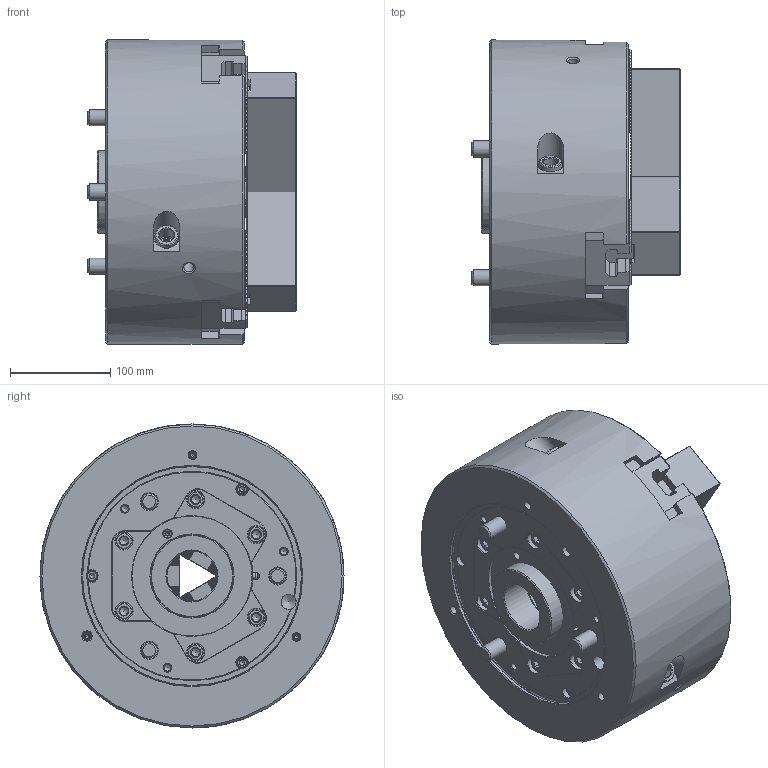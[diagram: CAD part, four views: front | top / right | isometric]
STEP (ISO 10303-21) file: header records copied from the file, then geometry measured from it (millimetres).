
FILE_DESCRIPTION (( 'STEP AP214' ), '1' );
FILE_NAME ('DT1_BL-212_OUTSIDE_VIEW_HOL.STEP', '2024-05-08T02:06:32', ( '' ), ( '' ), 'SwSTEP 2.0', 'SolidWorks 2022', '' );
FILE_SCHEMA (( 'AUTOMOTIVE_DESIGN' ));
Length unit declared in the file: millimetre
Products named in the file (9): DT1_B-212_DRAWNUT^DT1_BL-212_ﾃﾞﾌｫﾙﾄ; DT1_B-212_COVER^DT1_BL-212_ﾃﾞﾌｫﾙﾄ; DT1_B-212_M16x40^DT1_BL-212_ﾃﾞﾌｫﾙﾄ; DT1_B-212_TNUT^DT1_BL-212_ﾃﾞﾌｫﾙﾄ; BASE^DT1_BL-212_ﾃﾞﾌｫﾙﾄ; DT1_BL-212_OUTSIDE_VIEW_HOL; DT1_B-212_M5x10^DT1_BL-212_ﾃﾞﾌｫﾙﾄ; DT1_B-212_SOFTJAW^DT1_BL-212_ﾃﾞﾌｫﾙﾄ; DT1_B-212_M16x130^DT1_BL-212_ﾃﾞﾌｫﾙﾄ
Assembly tree (21 placements, depth 2):
  DT1_BL-212_OUTSIDE_VIEW_HOL
    DT1_B-212_DRAWNUT^DT1_BL-212_ﾃﾞﾌｫﾙﾄ
    DT1_B-212_COVER^DT1_BL-212_ﾃﾞﾌｫﾙﾄ
    DT1_B-212_TNUT^DT1_BL-212_ﾃﾞﾌｫﾙﾄ  x3
    DT1_B-212_SOFTJAW^DT1_BL-212_ﾃﾞﾌｫﾙﾄ  x3
    BASE^DT1_BL-212_ﾃﾞﾌｫﾙﾄ
    DT1_B-212_M16x40^DT1_BL-212_ﾃﾞﾌｫﾙﾄ  x6
    DT1_B-212_M16x130^DT1_BL-212_ﾃﾞﾌｫﾙﾄ  x3
    DT1_B-212_M5x10^DT1_BL-212_ﾃﾞﾌｫﾙﾄ  x3
Bounding box: 208 x 304 x 304 mm (x, y, z)
Volume: 9980242.5 mm3; surface area: 733500 mm2
Topology: 21 solids, 33 shells, 4082 faces, 11487 edges, 7551 vertices
Faces by surface type: plane 3356, cone 288, cylinder 285, bspline 121, torus 29, sphere 3
Full cylindrical faces by diameter (mm): 2 x3, 4.2 x3, 5 x5, 5.5 x3, 6 x1, 6.8 x9, 8 x1, 8.6 x3, 9.5 x3, 10 x9, 10.2 x2, 10.22 x3, 11 x9, 14 x6, 15 x4, 16 x9, 16.27 x6, 17 x15, 23.5 x3, 24.1 x3, 24.33 x9, 25 x9, 50 x1, 63 x1, 67 x3, 76 x1, 83 x2, 83.25 x1, 90 x2, 220 x1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
Entity records: 97987 total; most frequent: CARTESIAN_POINT 25350, ORIENTED_EDGE 15580, DIRECTION 13385, EDGE_CURVE 7790, LINE 6325, VECTOR 6325, VERTEX_POINT 5244, AXIS2_PLACEMENT_3D 3530
